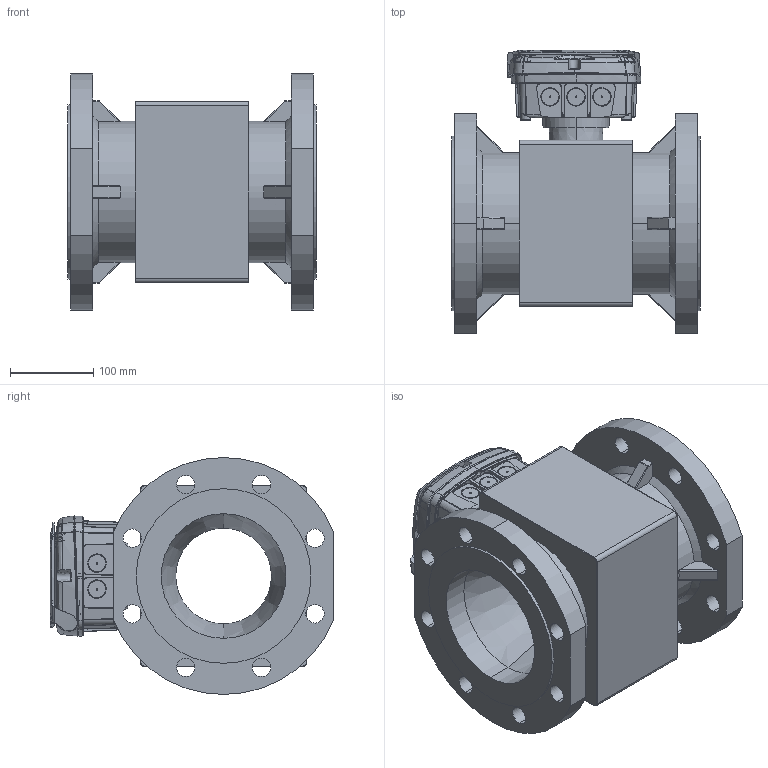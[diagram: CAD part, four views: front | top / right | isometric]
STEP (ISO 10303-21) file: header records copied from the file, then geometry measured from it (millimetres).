
FILE_DESCRIPTION (( 'STEP AP214' ), '1' );
FILE_NAME ('MagFlux-Q-DN150.STEP', '2018-01-07T08:37:58', ( 'Johnny' ), ( 'Hewlett-Packard Company' ), 'SwSTEP 2.0', 'SolidWorks 2017', '' );
FILE_SCHEMA (( 'AUTOMOTIVE_DESIGN' ));
Length unit declared in the file: millimetre
Products named in the file (7): 500216 - Field top - display; 500214 Field bund MagFlux 001; MagFlux-Q-DN150 Housing; MagFlux-Q-DN150; Field-MagFlux; 500220 - Field laag
Assembly tree (6 placements, depth 3):
  MagFlux-Q-DN150
    MagFlux-Q-DN150
    MagFlux-Q-DN150 Housing
    Field-MagFlux
      500214 Field bund MagFlux 001
      500216 - Field top - display
      500220 - Field laag
Bounding box: 299 x 340.97 x 285 mm (x, y, z)
Volume: 6062855.8 mm3; surface area: 1034396.3 mm2
Topology: 5 solids, 5 shells, 3245 faces, 8905 edges, 5771 vertices
Faces by surface type: bspline 1859, plane 897, cylinder 280, cone 191, torus 10, sphere 8
Entity records: 259321 total; most frequent: CARTESIAN_POINT 164222, ORIENTED_EDGE 17748, EDGE_CURVE 8874, DIRECTION 7442, VERTEX_POINT 5771, B_SPLINE_CURVE_WITH_KNOTS 4642, LINE 3450, VECTOR 3450
